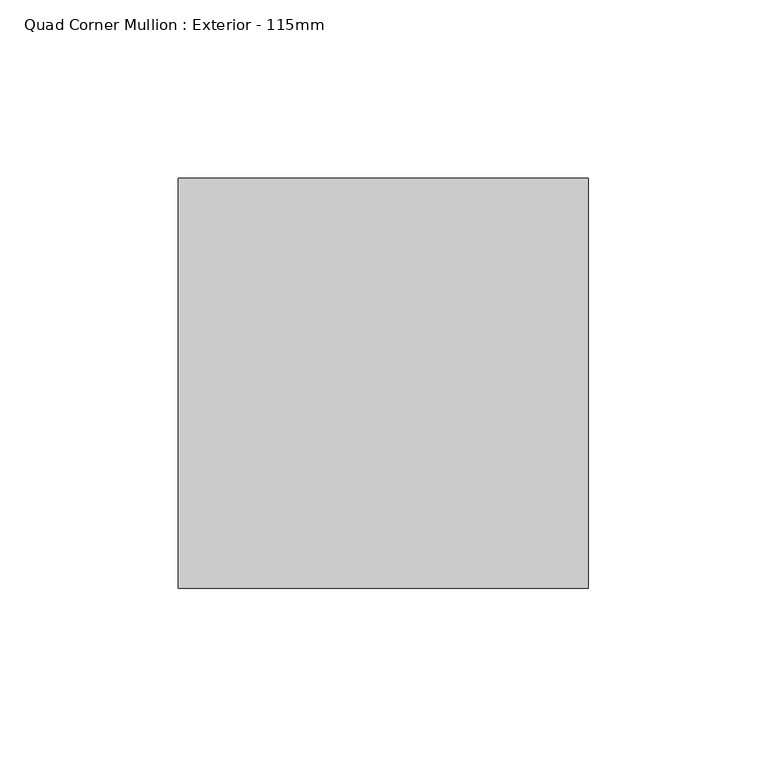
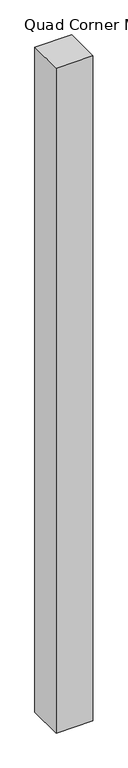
"""IFC4 building model written with IfcOpenShell, lengths in millimetres: member geometry, Quad Corner Mullion : Exterior - 115mm."""

from ifc_helpers import new_model, si_unit, frame, origin, place, context, project, spatial, polyline, outline, extrude, source, transform, mapped, element, save


def quad_corner_mullion_exterior_115mm_0678458d(model_context):
    return source(origin(), model_context, "Body", "SweptSolid", [
        extrude(outline(polyline([(7.5, 107.5), (7.5, -7.5), (-107.5, -7.5), (-107.5, 107.5), (7.5, 107.5)])), frame((0.0, 0.0, -2200.0), z_axis=(0.0, 0.0, 1.0), x_axis=(1.0, 0.0, 0.0)), (0.0, 0.0, 1.0), 2200.0),
    ])


if __name__ == "__main__":
    model = new_model("IFC4")
    model_context = context("Model", 3, world=origin())
    ifc_project = project(units=[si_unit("LENGTHUNIT", "METRE", prefix="MILLI")], contexts=[model_context])
    site = spatial("IfcSite", under=ifc_project)
    building = spatial("IfcBuilding", under=site)
    placement = place(None, origin())
    quad_corner_mullion_exterior_115mm_shape = quad_corner_mullion_exterior_115mm_0678458d(model_context)
    element("IfcMember", 1, ObjectType="Quad Corner Mullion : Exterior - 115mm", at=placement, inside=building, context=model_context, shape_type="MappedRepresentation", body=[
        mapped(quad_corner_mullion_exterior_115mm_shape, transform((0.0, 0.0, 0.0), x_axis=(1.0, 0.0, 0.0), y_axis=(0.0, 1.0, 0.0), z_axis=(0.0, 0.0, 1.0))),
    ])
    save(model, "model.ifc")
